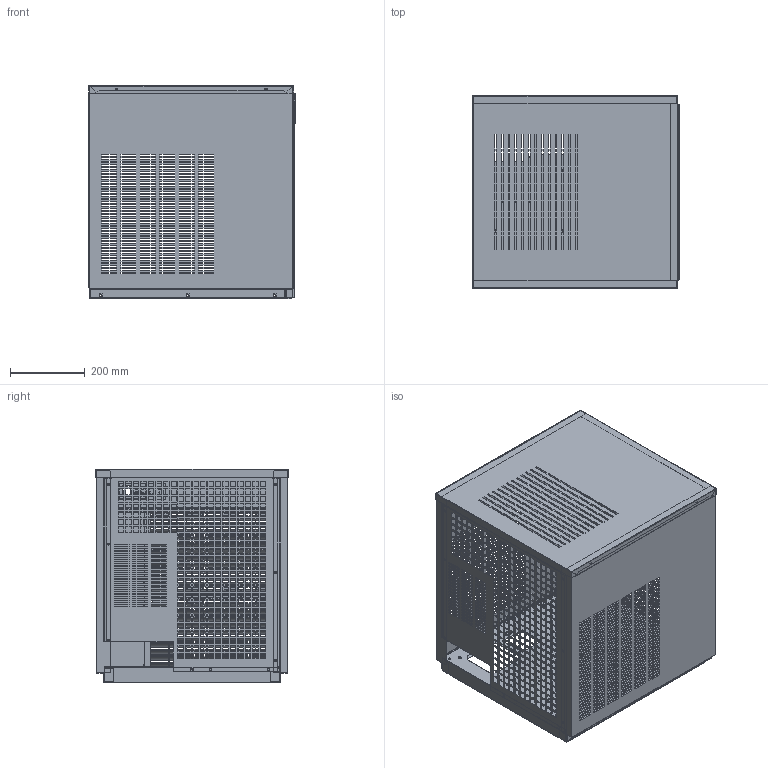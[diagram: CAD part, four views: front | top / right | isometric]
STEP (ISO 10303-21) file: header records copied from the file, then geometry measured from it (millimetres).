
FILE_DESCRIPTION(/* description */ ('Unknown'),/* implementation_level */ '2;1');
FILE_NAME(/* name */ 'IQ-200',/* time_stamp */ '2018-04-23T13:08:25+02:00',/* author */ ('Unknown'),/* organization */ ('Unknown'),/* preprocessor_version */ 'ST-DEVELOPER v16.7',/* originating_system */ 'DEX',/* authorisation */ $);
FILE_SCHEMA (('CONFIG_CONTROL_DESIGN','AP242_MANAGED_MODEL_BASED_3D_ENGINEERING_MIM_LF { 1 0 10303 442 1 1 4 }'));
Products named in the file (11): IQ-200_2011; 24-18+2456; 24-26+2463; 24-26+2464; 24-29+2466; 24-27+2465; 24-218+6647; 24-219+6656; 32-42; Pilotos-IQ_oa_0; 24-223
Assembly tree (11 placements, depth 3):
  IQ-200_2011
    24-18+2456
    24-26+2463
    24-26+2464
    24-29+2466
    24-27+2465
    24-218+6647
    24-219+6656
    32-42  x2
    Pilotos-IQ_oa_0
      24-223
Bounding box: 551.69 x 515.2 x 570.6 mm (x, y, z)
Volume: 1873931.1 mm3; surface area: 3934251.5 mm2
Topology: 10 solids, 10 shells, 7367 faces, 21786 edges, 14308 vertices
Faces by surface type: plane 5776, cylinder 971, bspline 596, torus 16, sphere 8
Full cylindrical faces by diameter (mm): 1 x35, 4 x19, 4.25 x7, 4.5 x4, 5 x2, 6 x31, 8 x10, 9 x5, 15 x1
Entity records: 214267 total; most frequent: CARTESIAN_POINT 48528, ORIENTED_EDGE 35490, DIRECTION 29664, EDGE_CURVE 17745, LINE 15310, VECTOR 15310, VERTEX_POINT 11770, EDGE_LOOP 8399
